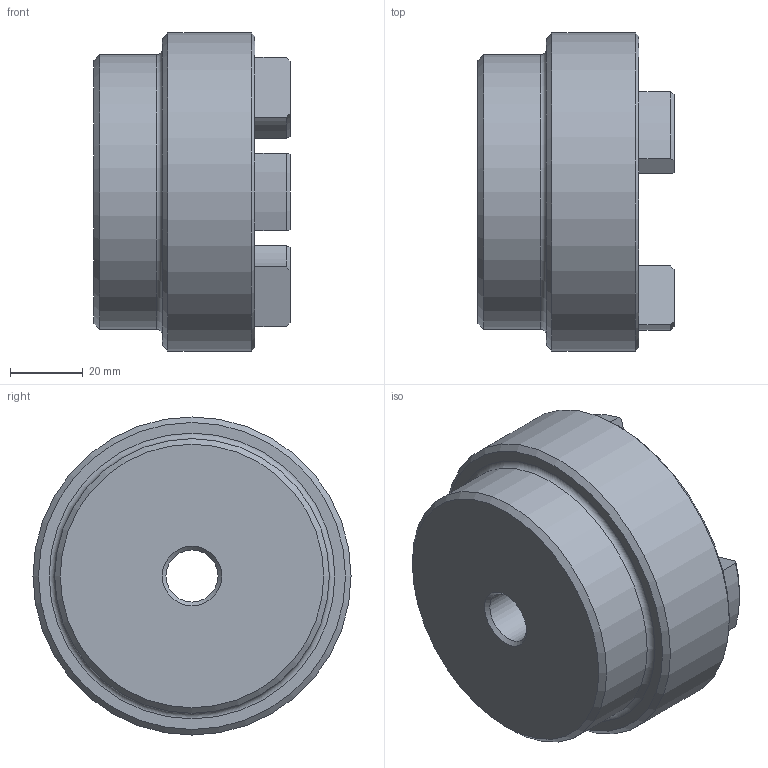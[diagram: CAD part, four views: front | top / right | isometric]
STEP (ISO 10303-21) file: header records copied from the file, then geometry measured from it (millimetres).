
FILE_DESCRIPTION (( 'STEP AP203' ), '1' );
FILE_NAME ('RC3.step', '2024-07-24T12:55:28', ( 'Adlan' ), ( '' ), 'SwSTEP 2.0', 'SolidWorks 2013', '' );
FILE_SCHEMA (( 'CONFIG_CONTROL_DESIGN' ));
Length unit declared in the file: inch
Products named in the file (1): RC3
Bounding box: 53.85 x 87.38 x 87.38 mm (x, y, z)
Volume: 191506.2 mm3; surface area: 29242.8 mm2
Topology: 1 solids, 1 shells, 60 faces, 146 edges, 90 vertices
Faces by surface type: cylinder 24, plane 13, torus 13, cone 10
Full cylindrical faces by diameter (mm): 14.295 x1, 75.438 x1, 87.376 x1
Entity records: 1841 total; most frequent: CARTESIAN_POINT 341, DIRECTION 324, ORIENTED_EDGE 274, EDGE_CURVE 137, AXIS2_PLACEMENT_3D 132, VERTEX_POINT 89, EDGE_LOOP 72, CIRCLE 71
